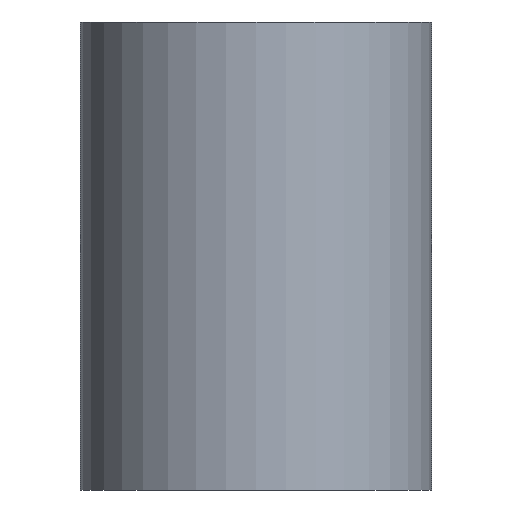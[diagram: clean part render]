
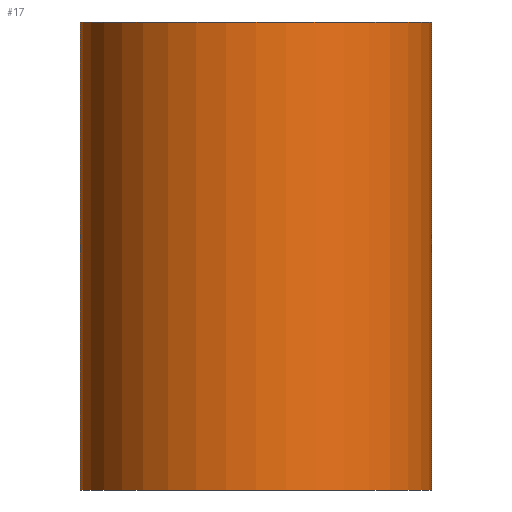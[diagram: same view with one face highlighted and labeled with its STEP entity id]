
A CAD part, front view. The second image highlights one B-rep face of the part: STEP entity #17.
In plain terms, the highlighted cylindrical face has radius 4.5 mm (diameter 9 mm), a full revolution.
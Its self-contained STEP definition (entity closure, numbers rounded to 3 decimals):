
#17 = ADVANCED_FACE('',(#18),#31,.T.);
#18 = FACE_BOUND('',#19,.T.);
#19 = EDGE_LOOP('',(#20,#54,#77,#104));
#20 = ORIENTED_EDGE('',*,*,#21,.T.);
#21 = EDGE_CURVE('',#22,#22,#24,.T.);
#22 = VERTEX_POINT('',#23);
#23 = CARTESIAN_POINT('',(4.5,0.,0.));
#24 = SURFACE_CURVE('',#25,(#30,#42),.PCURVE_S1.);
#25 = CIRCLE('',#26,4.5);
#26 = AXIS2_PLACEMENT_3D('',#27,#28,#29);
#27 = CARTESIAN_POINT('',(0.,0.,0.));
#28 = DIRECTION('',(0.,0.,1.));
#29 = DIRECTION('',(1.,0.,-0.));
#30 = PCURVE('',#31,#36);
#31 = CYLINDRICAL_SURFACE('',#32,4.5);
#32 = AXIS2_PLACEMENT_3D('',#33,#34,#35);
#33 = CARTESIAN_POINT('',(0.,0.,0.));
#34 = DIRECTION('',(-0.,-0.,-1.));
#35 = DIRECTION('',(1.,0.,0.));
#36 = DEFINITIONAL_REPRESENTATION('',(#37),#41);
#37 = LINE('',#38,#39);
#38 = CARTESIAN_POINT('',(6.283,0.));
#39 = VECTOR('',#40,1.);
#40 = DIRECTION('',(-1.,0.));
#41 = ( GEOMETRIC_REPRESENTATION_CONTEXT(2) 
PARAMETRIC_REPRESENTATION_CONTEXT() REPRESENTATION_CONTEXT('2D SPACE',''
  ) );
#42 = PCURVE('',#43,#48);
#43 = PLANE('',#44);
#44 = AXIS2_PLACEMENT_3D('',#45,#46,#47);
#45 = CARTESIAN_POINT('',(0.,0.,0.));
#46 = DIRECTION('',(0.,0.,1.));
#47 = DIRECTION('',(1.,0.,-0.));
#48 = DEFINITIONAL_REPRESENTATION('',(#49),#53);
#49 = CIRCLE('',#50,4.5);
#50 = AXIS2_PLACEMENT_2D('',#51,#52);
#51 = CARTESIAN_POINT('',(0.,0.));
#52 = DIRECTION('',(1.,0.));
#53 = ( GEOMETRIC_REPRESENTATION_CONTEXT(2) 
PARAMETRIC_REPRESENTATION_CONTEXT() REPRESENTATION_CONTEXT('2D SPACE',''
  ) );
#54 = ORIENTED_EDGE('',*,*,#55,.T.);
#55 = EDGE_CURVE('',#22,#56,#58,.T.);
#56 = VERTEX_POINT('',#57);
#57 = CARTESIAN_POINT('',(4.5,0.,12.));
#58 = SEAM_CURVE('',#59,(#63,#70),.PCURVE_S1.);
#59 = LINE('',#60,#61);
#60 = CARTESIAN_POINT('',(4.5,0.,0.));
#61 = VECTOR('',#62,1.);
#62 = DIRECTION('',(0.,0.,1.));
#63 = PCURVE('',#31,#64);
#64 = DEFINITIONAL_REPRESENTATION('',(#65),#69);
#65 = LINE('',#66,#67);
#66 = CARTESIAN_POINT('',(0.,0.));
#67 = VECTOR('',#68,1.);
#68 = DIRECTION('',(-0.,-1.));
#69 = ( GEOMETRIC_REPRESENTATION_CONTEXT(2) 
PARAMETRIC_REPRESENTATION_CONTEXT() REPRESENTATION_CONTEXT('2D SPACE',''
  ) );
#70 = PCURVE('',#31,#71);
#71 = DEFINITIONAL_REPRESENTATION('',(#72),#76);
#72 = LINE('',#73,#74);
#73 = CARTESIAN_POINT('',(6.283,0.));
#74 = VECTOR('',#75,1.);
#75 = DIRECTION('',(-0.,-1.));
#76 = ( GEOMETRIC_REPRESENTATION_CONTEXT(2) 
PARAMETRIC_REPRESENTATION_CONTEXT() REPRESENTATION_CONTEXT('2D SPACE',''
  ) );
#77 = ORIENTED_EDGE('',*,*,#78,.F.);
#78 = EDGE_CURVE('',#56,#56,#79,.T.);
#79 = SURFACE_CURVE('',#80,(#85,#92),.PCURVE_S1.);
#80 = CIRCLE('',#81,4.5);
#81 = AXIS2_PLACEMENT_3D('',#82,#83,#84);
#82 = CARTESIAN_POINT('',(0.,0.,12.));
#83 = DIRECTION('',(0.,0.,1.));
#84 = DIRECTION('',(1.,0.,-0.));
#85 = PCURVE('',#31,#86);
#86 = DEFINITIONAL_REPRESENTATION('',(#87),#91);
#87 = LINE('',#88,#89);
#88 = CARTESIAN_POINT('',(6.283,-12.));
#89 = VECTOR('',#90,1.);
#90 = DIRECTION('',(-1.,0.));
#91 = ( GEOMETRIC_REPRESENTATION_CONTEXT(2) 
PARAMETRIC_REPRESENTATION_CONTEXT() REPRESENTATION_CONTEXT('2D SPACE',''
  ) );
#92 = PCURVE('',#93,#98);
#93 = PLANE('',#94);
#94 = AXIS2_PLACEMENT_3D('',#95,#96,#97);
#95 = CARTESIAN_POINT('',(0.,0.,12.));
#96 = DIRECTION('',(0.,0.,1.));
#97 = DIRECTION('',(1.,0.,-0.));
#98 = DEFINITIONAL_REPRESENTATION('',(#99),#103);
#99 = CIRCLE('',#100,4.5);
#100 = AXIS2_PLACEMENT_2D('',#101,#102);
#101 = CARTESIAN_POINT('',(0.,0.));
#102 = DIRECTION('',(1.,0.));
#103 = ( GEOMETRIC_REPRESENTATION_CONTEXT(2) 
PARAMETRIC_REPRESENTATION_CONTEXT() REPRESENTATION_CONTEXT('2D SPACE',''
  ) );
#104 = ORIENTED_EDGE('',*,*,#55,.F.);
